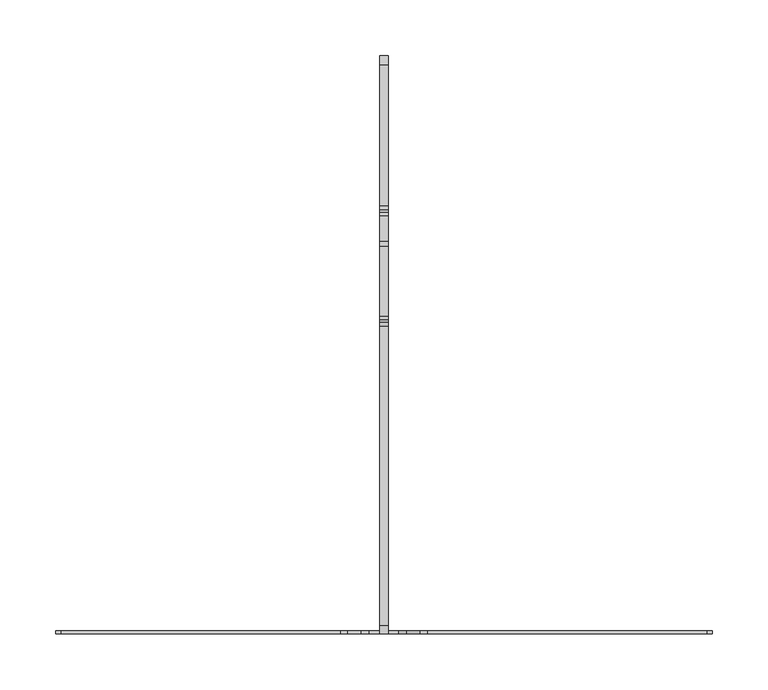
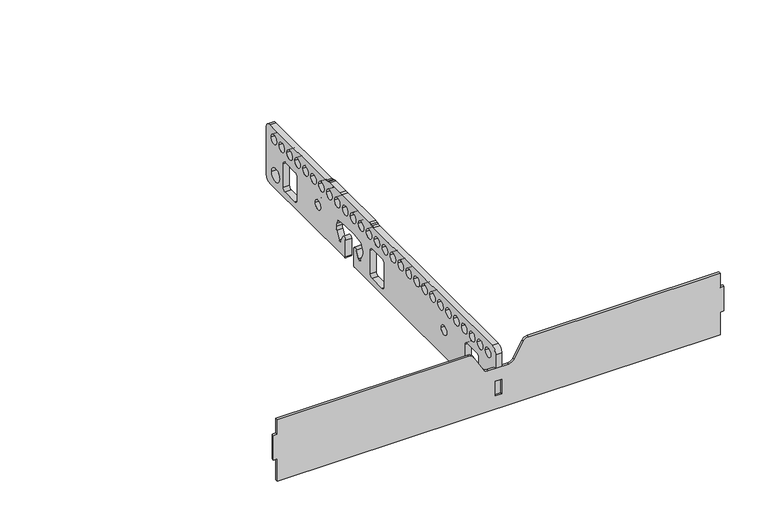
"""IFC4 building model written with IfcOpenShell, lengths in millimetres: proxy geometry, d&b CL-Series CCLi Flying Frame TOP : d&b CL-Series CCLi Flying Frame TOP."""

from ifc_helpers import new_model, si_unit, point, frame, frame_2d, origin, place, context, project, spatial, polyline, circle_curve, trimmed, segment, composite_curve, outline, extrude, source, transform, mapped, element, save


def communication_devices_fb72d271(model_context):
    return source(origin(), model_context, "Body", "SweptSolid", [
        extrude(outline(composite_curve([segment(polyline([(2.25, 16.0), (2.25, 70.25), (-0.75, 70.25), (-0.75, 89.0)]), True, "CONTINUOUS"), segment(trimmed(circle_curve(frame_2d((7.25, 89.0)), 8.0), [point((-0.75, 89.0))], [point((7.25, 97.0))], False, "CARTESIAN"), True, "CONTINUOUS"), segment(polyline([(7.25, 97.0), (276.2285055, 97.0)]), True, "CONTINUOUS"), segment(trimmed(circle_curve(frame_2d((276.2285055, 107.0)), 10.0), [point((276.2285055, 97.0))], [point((279.648707, 97.6030738))], True, "CARTESIAN"), True, "CONTINUOUS"), segment(polyline([(279.648707, 97.6030738), (281.8297986, 98.3969262)]), True, "CONTINUOUS"), segment(trimmed(circle_curve(frame_2d((285.25, 89.0)), 10.0), [point((281.8297986, 98.3969262))], [point((285.25, 99.0))], False, "CARTESIAN"), True, "CONTINUOUS"), segment(polyline([(285.25, 99.0), (347.919832, 99.0), (352.5686329, 99.0), (375.25, 99.0)]), True, "CONTINUOUS"), segment(trimmed(circle_curve(frame_2d((375.25, 89.0)), 10.0), [point((375.25, 99.0))], [point((378.6702014, 98.3969262))], False, "CARTESIAN"), True, "CONTINUOUS"), segment(polyline([(378.6702014, 98.3969262), (380.851293, 97.6030738)]), True, "CONTINUOUS"), segment(trimmed(circle_curve(frame_2d((384.2714945, 107.0)), 10.0), [point((380.851293, 97.6030738))], [point((384.2714945, 97.0))], True, "CARTESIAN"), True, "CONTINUOUS"), segment(polyline([(384.2714945, 97.0), (511.25, 97.0)]), True, "CONTINUOUS"), segment(trimmed(circle_curve(frame_2d((511.25, 89.0)), 8.0), [point((511.25, 97.0))], [point((519.25, 89.0))], False, "CARTESIAN"), True, "CONTINUOUS"), segment(polyline([(519.25, 89.0), (519.25, 24.0)]), True, "CONTINUOUS"), segment(trimmed(circle_curve(frame_2d((511.25, 24.0)), 8.0), [point((519.25, 24.0))], [point((511.25, 16.0))], False, "CARTESIAN"), True, "CONTINUOUS"), segment(polyline([(511.25, 16.0), (341.75, 16.0)]), True, "CONTINUOUS"), segment(trimmed(circle_curve(frame_2d((341.75, 18.0)), 2.0), [point((341.75, 16.0))], [point((339.75, 18.0))], False, "CARTESIAN"), True, "CONTINUOUS"), segment(polyline([(339.75, 18.0), (339.75, 41.0)]), True, "CONTINUOUS"), segment(trimmed(circle_curve(frame_2d((342.75, 41.0)), 3.0), [point((339.75, 41.0))], [point((345.3988428, 42.4084147))], False, "CARTESIAN"), True, "CONTINUOUS"), segment(polyline([(345.3988428, 42.4084147), (350.326916, 33.140057)]), True, "CONTINUOUS"), segment(trimmed(circle_curve(frame_2d((352.2242895, 34.1489084)), 2.1489084), [point((350.326916, 33.140057))], [point((354.1408358, 33.1769734))], True, "CARTESIAN"), True, "CONTINUOUS"), segment(polyline([(354.1408358, 33.1769734), (359.7701757, 42.9272762)]), True, "CONTINUOUS"), segment(trimmed(circle_curve(frame_2d((350.9869107, 47.7078887)), 10.0), [point((359.7701757, 42.9272762))], [point((360.9869107, 47.7078887))], True, "CARTESIAN"), True, "CONTINUOUS"), segment(trimmed(circle_curve(frame_2d((350.9869107, 47.7078887)), 10.0), [point((360.9869107, 47.7078887))], [point((360.0499886, 51.9340713))], True, "CARTESIAN"), True, "CONTINUOUS"), segment(polyline([(360.0499886, 51.9340713), (357.93954, 56.4599428)]), True, "CONTINUOUS"), segment(trimmed(circle_curve(frame_2d((353.4080011, 54.3468515)), 5.0), [point((357.93954, 56.4599428))], [point((354.0173478, 59.3095822))], True, "CARTESIAN"), True, "CONTINUOUS"), segment(polyline([(354.0173478, 59.3095822), (340.25, 61.0), (320.25, 61.0), (306.4826522, 59.3095822)]), True, "CONTINUOUS"), segment(trimmed(circle_curve(frame_2d((307.0919989, 54.3468515)), 5.0), [point((306.4826522, 59.3095822))], [point((302.56046, 56.4599428))], True, "CARTESIAN"), True, "CONTINUOUS"), segment(polyline([(302.56046, 56.4599428), (300.4500114, 51.9340713)]), True, "CONTINUOUS"), segment(trimmed(circle_curve(frame_2d((309.5130893, 47.7078887)), 10.0), [point((300.4500114, 51.9340713))], [point((300.7298243, 42.9272762))], True, "CARTESIAN"), True, "CONTINUOUS"), segment(polyline([(300.7298243, 42.9272762), (306.3591642, 33.1769734)]), True, "CONTINUOUS"), segment(trimmed(circle_curve(frame_2d((308.2757105, 34.1489084)), 2.1489084), [point((306.3591642, 33.1769734))], [point((310.173084, 33.140057))], True, "CARTESIAN"), True, "CONTINUOUS"), segment(polyline([(310.173084, 33.140057), (315.1011572, 42.4084147)]), True, "CONTINUOUS"), segment(trimmed(circle_curve(frame_2d((317.75, 41.0)), 3.0), [point((315.1011572, 42.4084147))], [point((320.75, 41.0))], False, "CARTESIAN"), True, "CONTINUOUS"), segment(polyline([(320.75, 41.0), (320.75, 18.0)]), True, "CONTINUOUS"), segment(trimmed(circle_curve(frame_2d((318.75, 18.0)), 2.0), [point((320.75, 18.0))], [point((318.75, 16.0))], False, "CARTESIAN"), True, "CONTINUOUS"), segment(polyline([(318.75, 16.0), (2.25, 16.0)]), True, "CONTINUOUS")], self_intersect=False), holes=[composite_curve([segment(trimmed(circle_curve(frame_2d((402.25, 52.0)), 6.25), [point((396.0, 52.0))], [point((408.5, 52.0))], True, "CARTESIAN"), True, "CONTINUOUS"), segment(trimmed(circle_curve(frame_2d((402.25, 52.0)), 6.25), [point((408.5, 52.0))], [point((396.0, 52.0))], True, "CARTESIAN"), True, "CONTINUOUS")], self_intersect=False), composite_curve([segment(trimmed(circle_curve(frame_2d((498.25, 35.0)), 9.0), [point((489.25, 35.0))], [point((507.25, 35.0))], True, "CARTESIAN"), True, "CONTINUOUS"), segment(trimmed(circle_curve(frame_2d((498.25, 35.0)), 9.0), [point((507.25, 35.0))], [point((489.25, 35.0))], True, "CARTESIAN"), True, "CONTINUOUS")], self_intersect=False), composite_curve([segment(trimmed(circle_curve(frame_2d((502.25, 82.0)), 6.25), [point((496.0, 82.0))], [point((508.5, 82.0))], True, "CARTESIAN"), True, "CONTINUOUS"), segment(trimmed(circle_curve(frame_2d((502.25, 82.0)), 6.25), [point((508.5, 82.0))], [point((496.0, 82.0))], True, "CARTESIAN"), True, "CONTINUOUS")], self_intersect=False), composite_curve([segment(trimmed(circle_curve(frame_2d((484.25, 82.0)), 6.25), [point((478.0, 82.0))], [point((490.5, 82.0))], True, "CARTESIAN"), True, "CONTINUOUS"), segment(trimmed(circle_curve(frame_2d((484.25, 82.0)), 6.25), [point((490.5, 82.0))], [point((478.0, 82.0))], True, "CARTESIAN"), True, "CONTINUOUS")], self_intersect=False), composite_curve([segment(trimmed(circle_curve(frame_2d((466.25, 82.0)), 6.25), [point((460.0, 82.0))], [point((472.5, 82.0))], True, "CARTESIAN"), True, "CONTINUOUS"), segment(trimmed(circle_curve(frame_2d((466.25, 82.0)), 6.25), [point((472.5, 82.0))], [point((460.0, 82.0))], True, "CARTESIAN"), True, "CONTINUOUS")], self_intersect=False), composite_curve([segment(trimmed(circle_curve(frame_2d((448.25, 82.0)), 6.25), [point((442.0, 82.0))], [point((454.5, 82.0))], True, "CARTESIAN"), True, "CONTINUOUS"), segment(trimmed(circle_curve(frame_2d((448.25, 82.0)), 6.25), [point((454.5, 82.0))], [point((442.0, 82.0))], True, "CARTESIAN"), True, "CONTINUOUS")], self_intersect=False), composite_curve([segment(trimmed(circle_curve(frame_2d((430.25, 82.0)), 6.25), [point((424.0, 82.0))], [point((436.5, 82.0))], True, "CARTESIAN"), True, "CONTINUOUS"), segment(trimmed(circle_curve(frame_2d((430.25, 82.0)), 6.25), [point((436.5, 82.0))], [point((424.0, 82.0))], True, "CARTESIAN"), True, "CONTINUOUS")], self_intersect=False), composite_curve([segment(trimmed(circle_curve(frame_2d((412.25, 82.0)), 6.25), [point((406.0, 82.0))], [point((418.5, 82.0))], True, "CARTESIAN"), True, "CONTINUOUS"), segment(trimmed(circle_curve(frame_2d((412.25, 82.0)), 6.25), [point((418.5, 82.0))], [point((406.0, 82.0))], True, "CARTESIAN"), True, "CONTINUOUS")], self_intersect=False), composite_curve([segment(trimmed(circle_curve(frame_2d((394.25, 82.0)), 6.25), [point((388.0, 82.0))], [point((400.5, 82.0))], True, "CARTESIAN"), True, "CONTINUOUS"), segment(trimmed(circle_curve(frame_2d((394.25, 82.0)), 6.25), [point((400.5, 82.0))], [point((388.0, 82.0))], True, "CARTESIAN"), True, "CONTINUOUS")], self_intersect=False), composite_curve([segment(trimmed(circle_curve(frame_2d((376.25, 82.0)), 6.25), [point((370.0, 82.0))], [point((382.5, 82.0))], True, "CARTESIAN"), True, "CONTINUOUS"), segment(trimmed(circle_curve(frame_2d((376.25, 82.0)), 6.25), [point((382.5, 82.0))], [point((370.0, 82.0))], True, "CARTESIAN"), True, "CONTINUOUS")], self_intersect=False), composite_curve([segment(trimmed(circle_curve(frame_2d((358.25, 82.0)), 6.25), [point((352.0, 82.0))], [point((364.5, 82.0))], True, "CARTESIAN"), True, "CONTINUOUS"), segment(trimmed(circle_curve(frame_2d((358.25, 82.0)), 6.25), [point((364.5, 82.0))], [point((352.0, 82.0))], True, "CARTESIAN"), True, "CONTINUOUS")], self_intersect=False), composite_curve([segment(trimmed(circle_curve(frame_2d((340.25, 82.0)), 6.25), [point((334.0, 82.0))], [point((346.5, 82.0))], True, "CARTESIAN"), True, "CONTINUOUS"), segment(trimmed(circle_curve(frame_2d((340.25, 82.0)), 6.25), [point((346.5, 82.0))], [point((334.0, 82.0))], True, "CARTESIAN"), True, "CONTINUOUS")], self_intersect=False), composite_curve([segment(trimmed(circle_curve(frame_2d((322.25, 82.0)), 6.25), [point((316.0, 82.0))], [point((328.5, 82.0))], True, "CARTESIAN"), True, "CONTINUOUS"), segment(trimmed(circle_curve(frame_2d((322.25, 82.0)), 6.25), [point((328.5, 82.0))], [point((316.0, 82.0))], True, "CARTESIAN"), True, "CONTINUOUS")], self_intersect=False), composite_curve([segment(trimmed(circle_curve(frame_2d((304.25, 82.0)), 6.25), [point((298.0, 82.0))], [point((310.5, 82.0))], True, "CARTESIAN"), True, "CONTINUOUS"), segment(trimmed(circle_curve(frame_2d((304.25, 82.0)), 6.25), [point((310.5, 82.0))], [point((298.0, 82.0))], True, "CARTESIAN"), True, "CONTINUOUS")], self_intersect=False), composite_curve([segment(trimmed(circle_curve(frame_2d((286.25, 82.0)), 6.25), [point((280.0, 82.0))], [point((292.5, 82.0))], True, "CARTESIAN"), True, "CONTINUOUS"), segment(trimmed(circle_curve(frame_2d((286.25, 82.0)), 6.25), [point((292.5, 82.0))], [point((280.0, 82.0))], True, "CARTESIAN"), True, "CONTINUOUS")], self_intersect=False), composite_curve([segment(trimmed(circle_curve(frame_2d((232.25, 82.0)), 6.25), [point((226.0, 82.0))], [point((238.5, 82.0))], True, "CARTESIAN"), True, "CONTINUOUS"), segment(trimmed(circle_curve(frame_2d((232.25, 82.0)), 6.25), [point((238.5, 82.0))], [point((226.0, 82.0))], True, "CARTESIAN"), True, "CONTINUOUS")], self_intersect=False), composite_curve([segment(trimmed(circle_curve(frame_2d((214.25, 82.0)), 6.25), [point((208.0, 82.0))], [point((220.5, 82.0))], True, "CARTESIAN"), True, "CONTINUOUS"), segment(trimmed(circle_curve(frame_2d((214.25, 82.0)), 6.25), [point((220.5, 82.0))], [point((208.0, 82.0))], True, "CARTESIAN"), True, "CONTINUOUS")], self_intersect=False), composite_curve([segment(trimmed(circle_curve(frame_2d((196.25, 82.0)), 6.25), [point((190.0, 82.0))], [point((202.5, 82.0))], True, "CARTESIAN"), True, "CONTINUOUS"), segment(trimmed(circle_curve(frame_2d((196.25, 82.0)), 6.25), [point((202.5, 82.0))], [point((190.0, 82.0))], True, "CARTESIAN"), True, "CONTINUOUS")], self_intersect=False), composite_curve([segment(trimmed(circle_curve(frame_2d((178.25, 82.0)), 6.25), [point((172.0, 82.0))], [point((184.5, 82.0))], True, "CARTESIAN"), True, "CONTINUOUS"), segment(trimmed(circle_curve(frame_2d((178.25, 82.0)), 6.25), [point((184.5, 82.0))], [point((172.0, 82.0))], True, "CARTESIAN"), True, "CONTINUOUS")], self_intersect=False), composite_curve([segment(trimmed(circle_curve(frame_2d((160.25, 82.0)), 6.25), [point((154.0, 82.0))], [point((166.5, 82.0))], True, "CARTESIAN"), True, "CONTINUOUS"), segment(trimmed(circle_curve(frame_2d((160.25, 82.0)), 6.25), [point((166.5, 82.0))], [point((154.0, 82.0))], True, "CARTESIAN"), True, "CONTINUOUS")], self_intersect=False), composite_curve([segment(trimmed(circle_curve(frame_2d((142.25, 82.0)), 6.25), [point((136.0, 82.0))], [point((148.5, 82.0))], True, "CARTESIAN"), True, "CONTINUOUS"), segment(trimmed(circle_curve(frame_2d((142.25, 82.0)), 6.25), [point((148.5, 82.0))], [point((136.0, 82.0))], True, "CARTESIAN"), True, "CONTINUOUS")], self_intersect=False), composite_curve([segment(trimmed(circle_curve(frame_2d((124.25, 82.0)), 6.25), [point((118.0, 82.0))], [point((130.5, 82.0))], True, "CARTESIAN"), True, "CONTINUOUS"), segment(trimmed(circle_curve(frame_2d((124.25, 82.0)), 6.25), [point((130.5, 82.0))], [point((118.0, 82.0))], True, "CARTESIAN"), True, "CONTINUOUS")], self_intersect=False), composite_curve([segment(trimmed(circle_curve(frame_2d((106.25, 82.0)), 6.25), [point((100.0, 82.0))], [point((112.5, 82.0))], True, "CARTESIAN"), True, "CONTINUOUS"), segment(trimmed(circle_curve(frame_2d((106.25, 82.0)), 6.25), [point((112.5, 82.0))], [point((100.0, 82.0))], True, "CARTESIAN"), True, "CONTINUOUS")], self_intersect=False), composite_curve([segment(trimmed(circle_curve(frame_2d((88.25, 82.0)), 6.25), [point((82.0, 82.0))], [point((94.5, 82.0))], True, "CARTESIAN"), True, "CONTINUOUS"), segment(trimmed(circle_curve(frame_2d((88.25, 82.0)), 6.25), [point((94.5, 82.0))], [point((82.0, 82.0))], True, "CARTESIAN"), True, "CONTINUOUS")], self_intersect=False), composite_curve([segment(trimmed(circle_curve(frame_2d((70.25, 82.0)), 6.25), [point((64.0, 82.0))], [point((76.5, 82.0))], True, "CARTESIAN"), True, "CONTINUOUS"), segment(trimmed(circle_curve(frame_2d((70.25, 82.0)), 6.25), [point((76.5, 82.0))], [point((64.0, 82.0))], True, "CARTESIAN"), True, "CONTINUOUS")], self_intersect=False), composite_curve([segment(trimmed(circle_curve(frame_2d((52.25, 82.0)), 6.25), [point((46.0, 82.0))], [point((58.5, 82.0))], True, "CARTESIAN"), True, "CONTINUOUS"), segment(trimmed(circle_curve(frame_2d((52.25, 82.0)), 6.25), [point((58.5, 82.0))], [point((46.0, 82.0))], True, "CARTESIAN"), True, "CONTINUOUS")], self_intersect=False), composite_curve([segment(trimmed(circle_curve(frame_2d((34.25, 82.0)), 6.25), [point((28.0, 82.0))], [point((40.5, 82.0))], True, "CARTESIAN"), True, "CONTINUOUS"), segment(trimmed(circle_curve(frame_2d((34.25, 82.0)), 6.25), [point((40.5, 82.0))], [point((28.0, 82.0))], True, "CARTESIAN"), True, "CONTINUOUS")], self_intersect=False), composite_curve([segment(trimmed(circle_curve(frame_2d((268.25, 82.0)), 6.25), [point((262.0, 82.0))], [point((274.5, 82.0))], True, "CARTESIAN"), True, "CONTINUOUS"), segment(trimmed(circle_curve(frame_2d((268.25, 82.0)), 6.25), [point((274.5, 82.0))], [point((262.0, 82.0))], True, "CARTESIAN"), True, "CONTINUOUS")], self_intersect=False), composite_curve([segment(trimmed(circle_curve(frame_2d((250.25, 82.0)), 6.25), [point((244.0, 82.0))], [point((256.5, 82.0))], True, "CARTESIAN"), True, "CONTINUOUS"), segment(trimmed(circle_curve(frame_2d((250.25, 82.0)), 6.25), [point((256.5, 82.0))], [point((244.0, 82.0))], True, "CARTESIAN"), True, "CONTINUOUS")], self_intersect=False), composite_curve([segment(trimmed(circle_curve(frame_2d((16.25, 82.0)), 6.25), [point((10.0, 82.0))], [point((22.5, 82.0))], True, "CARTESIAN"), True, "CONTINUOUS"), segment(trimmed(circle_curve(frame_2d((16.25, 82.0)), 6.25), [point((22.5, 82.0))], [point((10.0, 82.0))], True, "CARTESIAN"), True, "CONTINUOUS")], self_intersect=False), composite_curve([segment(polyline([(38.0, 61.25), (38.0, 28.75)]), True, "CONTINUOUS"), segment(trimmed(circle_curve(frame_2d((42.0, 28.75)), 4.0), [point((38.0, 28.75))], [point((42.0, 24.75))], True, "CARTESIAN"), True, "CONTINUOUS"), segment(polyline([(42.0, 24.75), (64.5, 24.75)]), True, "CONTINUOUS"), segment(trimmed(circle_curve(frame_2d((64.5, 28.75)), 4.0), [point((64.5, 24.75))], [point((68.5, 28.75))], True, "CARTESIAN"), True, "CONTINUOUS"), segment(polyline([(68.5, 28.75), (68.5, 61.25)]), True, "CONTINUOUS"), segment(trimmed(circle_curve(frame_2d((64.5, 61.25)), 4.0), [point((68.5, 61.25))], [point((64.5, 65.25))], True, "CARTESIAN"), True, "CONTINUOUS"), segment(polyline([(64.5, 65.25), (42.0, 65.25)]), True, "CONTINUOUS"), segment(trimmed(circle_curve(frame_2d((42.0, 61.25)), 4.0), [point((42.0, 65.25))], [point((38.0, 61.25))], True, "CARTESIAN"), True, "CONTINUOUS")], self_intersect=False), composite_curve([segment(trimmed(circle_curve(frame_2d((116.25, 52.0)), 6.25), [point((110.0, 52.0))], [point((122.5, 52.0))], True, "CARTESIAN"), True, "CONTINUOUS"), segment(trimmed(circle_curve(frame_2d((116.25, 52.0)), 6.25), [point((122.5, 52.0))], [point((110.0, 52.0))], True, "CARTESIAN"), True, "CONTINUOUS")], self_intersect=False), composite_curve([segment(polyline([(253.0, 61.25), (253.0, 28.75)]), True, "CONTINUOUS"), segment(trimmed(circle_curve(frame_2d((257.0, 28.75)), 4.0), [point((253.0, 28.75))], [point((257.0, 24.75))], True, "CARTESIAN"), True, "CONTINUOUS"), segment(polyline([(257.0, 24.75), (279.5, 24.75)]), True, "CONTINUOUS"), segment(trimmed(circle_curve(frame_2d((279.5, 28.75)), 4.0), [point((279.5, 24.75))], [point((283.5, 28.75))], True, "CARTESIAN"), True, "CONTINUOUS"), segment(polyline([(283.5, 28.75), (283.5, 61.25)]), True, "CONTINUOUS"), segment(trimmed(circle_curve(frame_2d((279.5, 61.25)), 4.0), [point((283.5, 61.25))], [point((279.5, 65.25))], True, "CARTESIAN"), True, "CONTINUOUS"), segment(polyline([(279.5, 65.25), (257.0, 65.25)]), True, "CONTINUOUS"), segment(trimmed(circle_curve(frame_2d((257.0, 61.25)), 4.0), [point((257.0, 65.25))], [point((253.0, 61.25))], True, "CARTESIAN"), True, "CONTINUOUS")], self_intersect=False), composite_curve([segment(polyline([(450.3093298, 61.25), (450.3093298, 28.75)]), True, "CONTINUOUS"), segment(trimmed(circle_curve(frame_2d((454.3093298, 28.75)), 4.0), [point((450.3093298, 28.75))], [point((454.3093298, 24.75))], True, "CARTESIAN"), True, "CONTINUOUS"), segment(polyline([(454.3093298, 24.75), (476.8093298, 24.75)]), True, "CONTINUOUS"), segment(trimmed(circle_curve(frame_2d((476.8093298, 28.75)), 4.0), [point((476.8093298, 24.75))], [point((480.8093298, 28.75))], True, "CARTESIAN"), True, "CONTINUOUS"), segment(polyline([(480.8093298, 28.75), (480.8093298, 61.25)]), True, "CONTINUOUS"), segment(trimmed(circle_curve(frame_2d((476.8093298, 61.25)), 4.0), [point((480.8093298, 61.25))], [point((476.8093298, 65.25))], True, "CARTESIAN"), True, "CONTINUOUS"), segment(polyline([(476.8093298, 65.25), (454.3093298, 65.25)]), True, "CONTINUOUS"), segment(trimmed(circle_curve(frame_2d((454.3093298, 61.25)), 4.0), [point((454.3093298, 65.25))], [point((450.3093298, 61.25))], True, "CARTESIAN"), True, "CONTINUOUS")], self_intersect=False)]), frame((-4.0, 0.0, 0.0), z_axis=(1.0, 0.0, 0.0), x_axis=(0.0, 1.0, 0.0)), (0.0, 0.0, 1.0), 8.0),
        extrude(outline(composite_curve([segment(polyline([(99.0, -39.3579656), (99.0, -290.0), (79.0, -290.0), (79.0, -295.0), (45.0, -295.0), (45.0, -290.0), (14.0, -290.0), (14.0, 290.0), (45.0, 290.0), (45.0, 295.0), (79.0, 295.0), (79.0, 290.0), (99.0, 290.0), (99.0, 39.3579656)]), True, "CONTINUOUS"), segment(trimmed(circle_curve(frame_2d((91.0069184, 39.3579656)), 7.9930816), [point((99.0, 39.3579656))], [point((95.0034592, 32.4357539))], False, "CARTESIAN"), True, "CONTINUOUS"), segment(polyline([(95.0034592, 32.4357539), (74.0, 20.3094011)]), True, "CONTINUOUS"), segment(trimmed(circle_curve(frame_2d((78.0, 13.3811978)), 8.0), [point((74.0, 20.3094011))], [point((70.0, 13.3811978))], True, "CARTESIAN"), True, "CONTINUOUS"), segment(polyline([(70.0, 13.3811978), (70.0, -13.3811978)]), True, "CONTINUOUS"), segment(trimmed(circle_curve(frame_2d((78.0, -13.3811978)), 8.0), [point((70.0, -13.3811978))], [point((74.0, -20.3094011))], True, "CARTESIAN"), True, "CONTINUOUS"), segment(polyline([(74.0, -20.3094011), (95.0034592, -32.4357539)]), True, "CONTINUOUS"), segment(trimmed(circle_curve(frame_2d((91.0069184, -39.3579656)), 7.9930816), [point((95.0034592, -32.4357539))], [point((99.0, -39.3579656))], False, "CARTESIAN"), True, "CONTINUOUS")], self_intersect=False), holes=[polyline([(52.0, 4.25), (32.0, 4.25), (32.0, -4.25), (52.0, -4.25), (52.0, 4.25)])]), frame((0.0, -0.75, 0.0), z_axis=(0.0, 1.0, 0.0), x_axis=(0.0, 0.0, 1.0)), (0.0, 0.0, 1.0), 3.0),
    ])


if __name__ == "__main__":
    model = new_model("IFC4")
    model_context = context("Model", 3, world=origin())
    ifc_project = project(units=[si_unit("LENGTHUNIT", "METRE", prefix="MILLI")], contexts=[model_context])
    site = spatial("IfcSite", under=ifc_project)
    building = spatial("IfcBuilding", under=site)
    placement = place(None, origin())
    communication_devices_shape = communication_devices_fb72d271(model_context)
    element("IfcBuildingElementProxy", 1, Name="d&b CL-Series CCLi Flying Frame TOP : d&b CL-Series CCLi Flying Frame TOP", ObjectType="d&b CL-Series CCLi Flying Frame TOP : d&b CL-Series CCLi Flying Frame TOP", at=placement, inside=building, context=model_context, shape_type="MappedRepresentation", body=[
        mapped(communication_devices_shape, transform((0.0, 0.0, 0.0), x_axis=(1.0, 0.0, 0.0), y_axis=(0.0, 1.0, 0.0), z_axis=(0.0, 0.0, 1.0))),
    ])
    save(model, "model.ifc")
